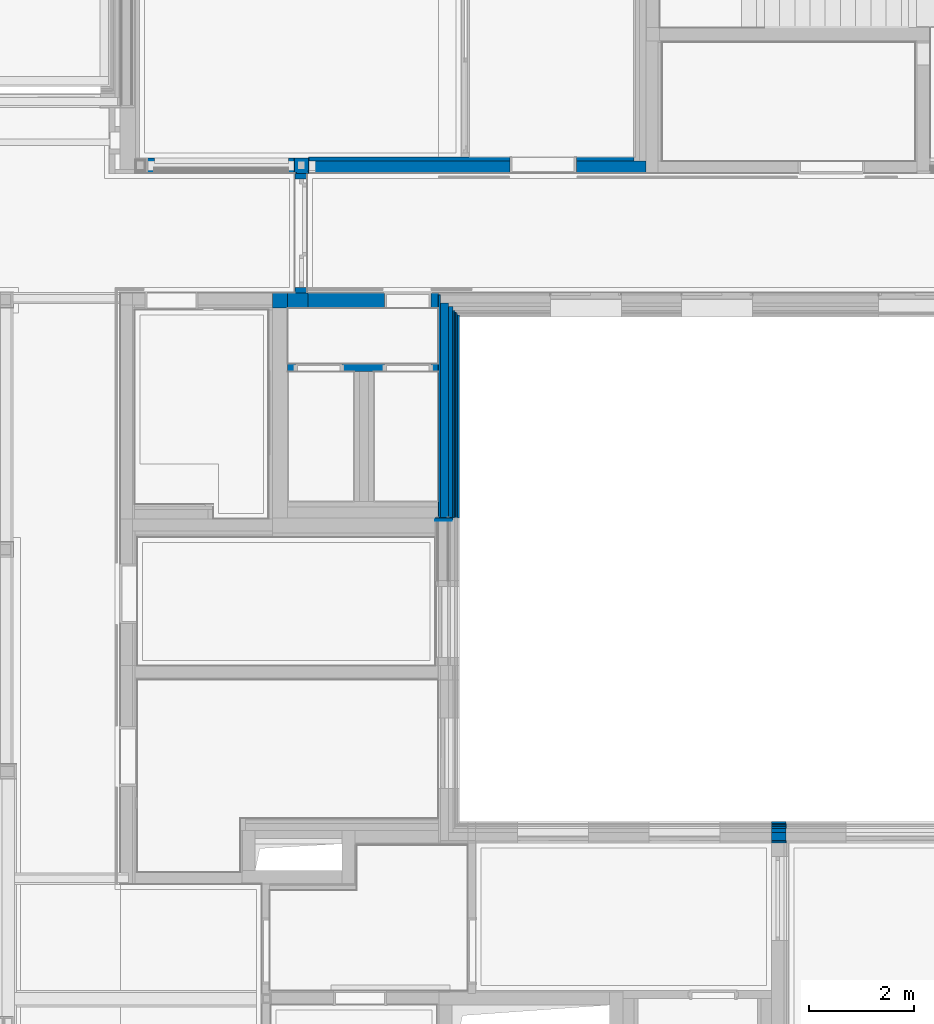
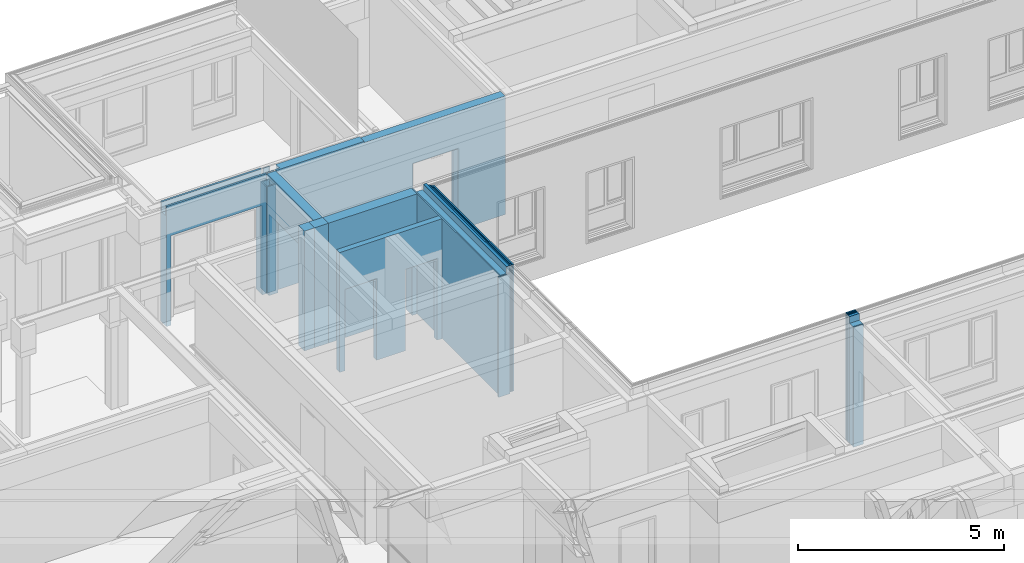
# One storey, part 30 of 222: 32 walls, 7 openings.
"""IFC4 building model written with IfcOpenShell, lengths in metres."""

from ifc_helpers import new_model, entity, si_unit, converted_unit, derived_unit, frame, frame_2d, origin, origin_with_axes, place, context, subcontext, project, spatial, polyline, rectangle, outline, extrude, clip, bounded_halfspace, material, element, save


model = new_model("IFC4")

# Units and contexts
model_context = context("Model", 3, precision=1e-05, world=origin())
body_context = subcontext(model_context, "Body", "Model", "MODEL_VIEW")
ifc_project = project(units=[si_unit("LENGTHUNIT", "METRE"), si_unit("AREAUNIT", "SQUARE_METRE"), si_unit("VOLUMEUNIT", "CUBIC_METRE"), si_unit("MASSUNIT", "GRAM", prefix="KILO"), converted_unit("PLANEANGLEUNIT", "DEGREE", entity("IfcPlaneAngleMeasure", 0.0174532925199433), si_unit("PLANEANGLEUNIT", "RADIAN"), dimensions=[0, 0, 0, 0, 0, 0, 0]), derived_unit("THERMALTRANSMITTANCEUNIT", [(si_unit("POWERUNIT", "WATT"), 1), (si_unit("THERMODYNAMICTEMPERATUREUNIT", "KELVIN"), -1), (si_unit("LENGTHUNIT", "METRE"), -2)]), derived_unit("VOLUMETRICFLOWRATEUNIT", [(si_unit("LENGTHUNIT", "METRE"), 3), (converted_unit("TIMEUNIT", "hour", entity("IfcTimeMeasure", 3600.0), si_unit("TIMEUNIT", "SECOND"), dimensions=[0, 0, 1, 0, 0, 0, 0]), -1), (si_unit("LENGTHUNIT", "METRE"), -1)])], contexts=[model_context])

# Site, building, storey
site_placement = place(None, origin())
site = spatial("IfcSite", under=ifc_project, at=site_placement, Name="Psychiatrie Neubau Wunstorf", CompositionType="ELEMENT")
building_placement = place(site_placement, origin())
building = spatial("IfcBuilding", under=site, at=building_placement, Name="Neubau H2 Stationsgebäude", CompositionType="ELEMENT")
storey_placement = place(building_placement, frame((0.0, 0.0, 3.6)))
storey = spatial("IfcBuildingStorey", under=building, at=storey_placement, Name="H2 Ebene +1", CompositionType="ELEMENT", Elevation=3.6)

# Walls
ifc_material_1 = material(Name="WA-LB")
wall_1_placement = place(storey_placement, frame((43.9390000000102, 20.5499980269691, 0.0), z_axis=(0.0, 0.0, 1.0), x_axis=(0.0, -1.0, 0.0)))
element("IfcWall", 1, at=wall_1_placement, inside=storey, material=ifc_material_1, context=body_context, shape_type="SweptSolid", body=[
    extrude(rectangle(XDim=4.24949197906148, YDim=0.036, at=frame_2d((2.12474598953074, 0.018), x_axis=(1.0, 0.0))), origin_with_axes(), (0.0, 0.0, 1.0), 3.55),
])
ifc_material_2 = material(Name="WA-DL")
wall_2_placement = place(storey_placement, frame((43.9750000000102, 20.3899980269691, 0.0), z_axis=(0.0, 0.0, 1.0), x_axis=(0.0, -1.0, 0.0)))
element("IfcWall", 2, at=wall_2_placement, inside=storey, material=ifc_material_2, context=body_context, shape_type="SweptSolid", body=[
    extrude(rectangle(XDim=4.08949197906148, YDim=0.16, at=frame_2d((2.04474598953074, 0.08), x_axis=(1.0, 0.0))), origin_with_axes(), (0.0, 0.0, 1.0), 3.55),
])
ifc_material_3 = material(Name="WA-DL")
wall_3_placement = place(storey_placement, frame((44.1350000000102, 20.3299980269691, 0.0), z_axis=(0.0, 0.0, 1.0), x_axis=(0.0, -1.0, 0.0)))
element("IfcWall", 3, at=wall_3_placement, inside=storey, material=ifc_material_3, context=body_context, shape_type="SweptSolid", body=[
    extrude(rectangle(XDim=4.02949197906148, YDim=0.08, at=frame_2d((2.01474598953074, 0.04), x_axis=(1.0, 0.0))), origin_with_axes(), (0.0, 0.0, 1.0), 3.75),
])
ifc_material_4 = material(Name="WA-LB")
wall_4_placement = place(storey_placement, frame((44.2150000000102, 20.2499980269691, 0.0), z_axis=(0.0, 0.0, 1.0), x_axis=(0.0, -1.0, 0.0)))
element("IfcWall", 4, at=wall_4_placement, inside=storey, material=ifc_material_4, context=body_context, shape_type="SweptSolid", body=[
    extrude(rectangle(XDim=3.94949197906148, YDim=0.036, at=frame_2d((1.97474598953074, 0.018), x_axis=(1.0, 0.0))), origin_with_axes(), (0.0, 0.0, 1.0), 3.75),
])
ifc_material_5 = material(Name="WA-KL")
wall_5_placement = place(storey_placement, frame((44.2510000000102, 20.2139980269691, 0.0), z_axis=(0.0, 0.0, 1.0), x_axis=(0.0, -1.0, 0.0)))
element("IfcWall", 5, at=wall_5_placement, inside=storey, material=ifc_material_5, context=body_context, shape_type="SweptSolid", body=[
    extrude(rectangle(XDim=3.91349197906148, YDim=0.024, at=frame_2d((1.95674598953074, 0.012), x_axis=(1.0, 0.0))), origin_with_axes(), (0.0, 0.0, 1.0), 3.75),
])
ifc_material_6 = material(Name="WA-TL")
wall_6_placement = place(storey_placement, frame((44.2750000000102, 20.1899980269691, 0.0), z_axis=(0.0, 0.0, 1.0), x_axis=(0.0, -1.0, 0.0)))
element("IfcWall", 6, at=wall_6_placement, inside=storey, material=ifc_material_6, context=body_context, shape_type="SweptSolid", body=[
    extrude(rectangle(XDim=3.88949197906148, YDim=0.024, at=frame_2d((1.94474598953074, 0.012), x_axis=(1.0, 0.0))), origin_with_axes(), (0.0, 0.0, 1.0), 3.75),
])
ifc_material_7 = material(Name="WA-HS")
wall_7_placement = place(storey_placement, frame((44.2990000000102, 20.1659980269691, 0.0), z_axis=(0.0, 0.0, 1.0), x_axis=(0.0, -1.0, 0.0)))
element("IfcWall", 7, at=wall_7_placement, inside=storey, material=ifc_material_7, context=body_context, shape_type="SweptSolid", body=[
    extrude(rectangle(XDim=3.86549197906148, YDim=0.042, at=frame_2d((1.93274598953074, 0.021), x_axis=(1.0, 0.0))), origin_with_axes(), (0.0, 0.0, 1.0), 3.75),
])
ifc_material_8 = material(Name="WA-LB")
wall_8_placement = place(storey_placement, frame((50.2860000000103, 10.1139996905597, 0.0)))
element("IfcWall", 8, at=wall_8_placement, inside=storey, material=ifc_material_8, Name="2x Gipsfaserplatte", context=body_context, shape_type="SweptSolid", body=[
    extrude(rectangle(XDim=0.272, YDim=0.036, at=frame_2d((0.136, 0.018), x_axis=(1.0, 0.0))), origin_with_axes(), (0.0, 0.0, 1.0), 3.55),
])
ifc_material_9 = material(Name="WA-DL")
wall_9_placement = place(storey_placement, frame((50.2860000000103, 10.1499996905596, 0.0)))
element("IfcWall", 9, at=wall_9_placement, inside=storey, material=ifc_material_9, Name="Holzständer + Zwischendämmung", context=body_context, shape_type="SweptSolid", body=[
    extrude(rectangle(XDim=0.272, YDim=0.16, at=frame_2d((0.136, 0.08), x_axis=(1.0, 0.0))), origin_with_axes(), (0.0, 0.0, 1.0), 3.55),
])
ifc_material_10 = material(Name="WA-DL")
wall_10_placement = place(storey_placement, frame((50.2860000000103, 10.3099996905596, 0.0)))
element("IfcWall", 10, at=wall_10_placement, inside=storey, material=ifc_material_10, Name="Staffel + Zwischendämmung", context=body_context, shape_type="SweptSolid", body=[
    extrude(rectangle(XDim=0.272, YDim=0.08, at=frame_2d((0.136, 0.04), x_axis=(1.0, 0.0))), origin_with_axes(), (0.0, 0.0, 1.0), 3.75),
])
ifc_material_11 = material(Name="WA-LB")
wall_11_placement = place(storey_placement, frame((50.2860000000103, 10.3899996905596, 0.0)))
element("IfcWall", 11, at=wall_11_placement, inside=storey, material=ifc_material_11, context=body_context, shape_type="SweptSolid", body=[
    extrude(rectangle(XDim=0.272, YDim=0.036, at=frame_2d((0.136, 0.018), x_axis=(1.0, 0.0))), origin_with_axes(), (0.0, 0.0, 1.0), 3.75),
])
ifc_material_12 = material(Name="WA-KL")
wall_12_placement = place(storey_placement, frame((50.2860000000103, 10.4259996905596, 0.0)))
element("IfcWall", 12, at=wall_12_placement, inside=storey, material=ifc_material_12, Name="Konterlattung", context=body_context, shape_type="SweptSolid", body=[
    extrude(rectangle(XDim=0.272, YDim=0.024, at=frame_2d((0.136, 0.012), x_axis=(1.0, 0.0))), origin_with_axes(), (0.0, 0.0, 1.0), 3.75),
])
ifc_material_13 = material(Name="WA-TL")
wall_13_placement = place(storey_placement, frame((50.2860000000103, 10.4499996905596, 0.0)))
element("IfcWall", 13, at=wall_13_placement, inside=storey, material=ifc_material_13, Name="Traglattung", context=body_context, shape_type="SweptSolid", body=[
    extrude(rectangle(XDim=0.272, YDim=0.024, at=frame_2d((0.136, 0.012), x_axis=(1.0, 0.0))), origin_with_axes(), (0.0, 0.0, 1.0), 3.75),
])
ifc_material_14 = material(Name="WA-HS")
wall_14_placement = place(storey_placement, frame((50.2860000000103, 10.4739996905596, 0.0)))
element("IfcWall", 14, at=wall_14_placement, inside=storey, material=ifc_material_14, Name="Holzschindel", context=body_context, shape_type="SweptSolid", body=[
    extrude(rectangle(XDim=0.272, YDim=0.042, at=frame_2d((0.136, 0.021), x_axis=(1.0, 0.0))), origin_with_axes(), (0.0, 0.0, 1.0), 3.75),
])
ifc_material_15 = material(Name="WA-LB")
wall_15_placement = place(storey_placement, frame((44.2150000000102, 16.3005060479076, 0.0), z_axis=(0.0, 0.0, 1.0), x_axis=(-1.0, 0.0, 0.0)))
element("IfcWall", 15, at=wall_15_placement, inside=storey, material=ifc_material_15, context=body_context, shape_type="SweptSolid", body=[
    extrude(rectangle(XDim=0.333, YDim=0.036, at=frame_2d((0.1665, 0.018), x_axis=(1.0, 0.0))), origin_with_axes(), (0.0, 0.0, 1.0), 3.55),
])
ifc_material_16 = material(Name="WA-LB")
wall_16_placement = place(storey_placement, frame((44.1960000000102, 16.2645060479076, 0.0), z_axis=(0.0, 0.0, 1.0), x_axis=(-1.0, 0.0, 0.0)))
element("IfcWall", 16, at=wall_16_placement, inside=storey, material=ifc_material_16, context=body_context, shape_type="SweptSolid", body=[
    extrude(rectangle(XDim=0.314, YDim=0.019, at=frame_2d((0.157, 0.0095), x_axis=(1.0, 0.0))), origin_with_axes(), (0.0, 0.0, 1.0), 3.55),
])

# Wall, opening
ifc_material_17 = material(Name="WI-HW 60")
wall_17_placement = place(storey_placement, frame((43.9390000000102, 20.5859980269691, 0.0), z_axis=(0.0, 0.0, 1.0), x_axis=(-1.0, 0.0, 0.0)))
wall_17 = element("IfcWall", 17, at=wall_17_placement, inside=storey, material=ifc_material_17, context=body_context, shape_type="SweptSolid", body=[
    extrude(rectangle(XDim=2.48100000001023, YDim=0.29, at=frame_2d((1.24050000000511, 0.145), x_axis=(1.0, 0.0))), origin_with_axes(), (0.0, 0.0, 1.0), 3.55),
])
opening_1_placement = place(wall_17_placement, frame((0.139000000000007, 0.0, 0.0), z_axis=(0.0, 1.0, 0.0), x_axis=(0.0, 0.0, 1.0)))
element("IfcOpeningElement", 18, at=opening_1_placement, cuts=wall_17, Name="Türöffnung", ObjectType="Opening", context=body_context, shape_type="SweptSolid", body=[
    extrude(outline(polyline([(2.41, 0.885), (2.41, 0.0), (0.0, 0.0), (0.0, 0.885), (2.41, 0.885)])), origin_with_axes(), (0.0, 0.0, 1.0), 0.29),
])

ifc_material_18 = material(Name="WI-LW 60")
wall_18_placement = place(storey_placement, frame((41.198, 23.1540026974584, 0.0), z_axis=(0.0, 0.0, 1.0), x_axis=(-0.999999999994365, -3.35709518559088e-06, 0.0)))
wall_18 = element("IfcWall", 19, at=wall_18_placement, inside=storey, material=ifc_material_18, context=body_context, shape_type="Clipping", body=[
    clip(extrude(outline(polyline([(-2.79500097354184, -0.289990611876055), (-9.73526087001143e-07, -0.289990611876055), (0.0, 0.0), (-2.79499999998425, 9.38308104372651e-06), (-2.79500097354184, -0.289990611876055)])), frame((2.79500097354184, 0.289990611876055, 0.0), z_axis=(0.0, 0.0, 1.0), x_axis=(1.0, 0.0, 0.0)), (0.0, 0.0, 1.0), 3.55), bounded_halfspace(frame((1.39750048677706, 0.144997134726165, 3.25), z_axis=(0.0, 0.0, -1.0), x_axis=(3.35709518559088e-06, 0.999999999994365, 0.0)), True, origin_with_axes(), polyline([(2.79500018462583, 0.0549910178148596), (2.79500078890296, 0.23499101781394), (7.889282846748e-07, 0.23500325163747), (1.84651151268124e-07, 0.0550032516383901), (2.79500018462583, 0.0549910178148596)]))),
])
opening_2_placement = place(wall_18_placement, frame((2.66775097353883, 0.289991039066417, 0.0), z_axis=(-3.35709518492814e-06, -0.999999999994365, 0.0), x_axis=(0.0, 0.0, 1.0)))
element("IfcOpeningElement", 20, at=opening_2_placement, cuts=wall_18, Name="Türöffnung", ObjectType="Opening", context=body_context, shape_type="SweptSolid", body=[
    extrude(outline(polyline([(2.65, 2.55), (2.65, 0.0), (0.0, 0.0), (0.0, 2.55), (2.65, 2.55)])), origin_with_axes(), (0.0, 0.0, 1.0), 0.29),
])

ifc_material_19 = material(Name="WI-LW 60")
wall_19_placement = place(storey_placement, frame((41.208, 22.8639990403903, 0.0), z_axis=(0.0, 0.0, 1.0), x_axis=(0.0, -1.0, 0.0)))
wall_19 = element("IfcWall", 21, at=wall_19_placement, inside=storey, material=ifc_material_19, context=body_context, shape_type="SweptSolid", body=[
    extrude(rectangle(XDim=2.27800098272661, YDim=0.25, at=frame_2d((1.13900049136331, 0.125), x_axis=(1.0, 0.0))), origin_with_axes(), (0.0, 0.0, 1.0), 3.55),
])
opening_3_placement = place(wall_19_placement, frame((0.107499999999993, 0.0, 0.0), z_axis=(0.0, 1.0, 0.0), x_axis=(0.0, 0.0, 1.0)))
element("IfcOpeningElement", 22, at=opening_3_placement, cuts=wall_19, Name="Türöffnung", ObjectType="Opening", context=body_context, shape_type="SweptSolid", body=[
    extrude(outline(polyline([(2.41, 2.063), (2.41, 0.0), (0.0, 0.0), (0.0, 2.063), (2.41, 2.063)])), origin_with_axes(), (0.0, 0.0, 1.0), 0.25),
])

ifc_material_20 = material(Name="WI-LB")
wall_20_placement = place(storey_placement, frame((47.664, 23.1709999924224, 0.0), z_axis=(0.0, 0.0, 1.0), x_axis=(-1.0, 0.0, 0.0)))
wall_20 = element("IfcWall", 23, at=wall_20_placement, inside=storey, material=ifc_material_20, context=body_context, shape_type="Clipping", body=[
    clip(extrude(rectangle(XDim=6.19599999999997, YDim=0.075, at=frame_2d((3.09799999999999, 0.0375), x_axis=(1.0, 0.0))), origin_with_axes(), (0.0, 0.0, 1.0), 2.85), bounded_halfspace(frame((1.86324999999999, 0.0375, 2.81), z_axis=(0.0, 0.0, -1.0), x_axis=(1.0, 0.0, 0.0)), True, origin_with_axes(), polyline([(0.0, 0.0), (3.72649999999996, 0.0), (3.72649999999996, 0.075), (0.0, 0.075), (0.0, 0.0)]))),
])
opening_4_placement = place(wall_20_placement, frame((2.35899999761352, 0.075, 0.0), z_axis=(0.0, -1.0, 0.0), x_axis=(0.0, 0.0, 1.0)))
element("IfcOpeningElement", 24, at=opening_4_placement, cuts=wall_20, Name="Türöffnung", ObjectType="Opening", context=body_context, shape_type="SweptSolid", body=[
    extrude(outline(polyline([(2.41, 1.26), (2.41, 0.0), (0.0, 0.0), (0.0, 1.26), (2.41, 1.26)])), origin_with_axes(), (0.0, 0.0, 1.0), 0.075),
])

ifc_material_21 = material(Name="WI-HW 60")
wall_21_placement = place(storey_placement, frame((47.889, 23.0959999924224, 0.0), z_axis=(0.0, 0.0, 1.0), x_axis=(-1.0, 0.0, 0.0)))
wall_21 = element("IfcWall", 25, at=wall_21_placement, inside=storey, material=ifc_material_21, context=body_context, shape_type="Clipping", body=[
    clip(clip(extrude(rectangle(XDim=6.42099999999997, YDim=0.232, at=frame_2d((3.21049999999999, 0.116), x_axis=(1.0, 0.0))), origin_with_axes(), (0.0, 0.0, 1.0), 3.55), bounded_halfspace(frame((6.35724911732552, 0.0885004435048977, 3.25), z_axis=(0.0, 0.0, -1.0), x_axis=(-1.01994363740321e-06, -0.99999999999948, 0.0)), True, origin_with_axes(), polyline([(6.29349832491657, 0.177000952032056), (6.29349814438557, 0.0), (6.42099999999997, 0.0), (6.42099999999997, 0.177000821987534), (6.29349832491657, 0.177000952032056)]))), bounded_halfspace(frame((1.97574999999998, 0.116, 3.51), z_axis=(0.0, 0.0, -1.0), x_axis=(-1.0, 0.0, 0.0)), True, origin_with_axes(), polyline([(3.95149999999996, 0.232), (0.0, 0.232), (0.0, 0.0), (3.95149999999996, 0.0), (3.95149999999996, 0.232)]))),
])
opening_5_placement = place(wall_21_placement, frame((2.58399999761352, 0.232, 0.0), z_axis=(0.0, -1.0, 0.0), x_axis=(0.0, 0.0, 1.0)))
element("IfcOpeningElement", 26, at=opening_5_placement, cuts=wall_21, Name="Türöffnung", ObjectType="Opening", context=body_context, shape_type="SweptSolid", body=[
    extrude(outline(polyline([(2.41, 1.26), (2.41, 0.0), (0.0, 0.0), (0.0, 1.26), (2.41, 1.26)])), origin_with_axes(), (0.0, 0.0, 1.0), 0.232),
])

# Wall, openings
ifc_material_22 = material(Name="WI-LB")
wall_22_placement = place(storey_placement, frame((43.9390000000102, 19.2350060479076, 0.0), z_axis=(0.0, 0.0, 1.0), x_axis=(-1.0, 0.0, 0.0)))
wall_22 = element("IfcWall", 27, at=wall_22_placement, inside=storey, material=ifc_material_22, context=body_context, shape_type="SweptSolid", body=[
    extrude(rectangle(XDim=2.87000000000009, YDim=0.15, at=frame_2d((1.43500000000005, 0.075), x_axis=(1.0, 0.0))), origin_with_axes(), (0.0, 0.0, 1.0), 3.55),
])
opening_6_placement = place(wall_22_placement, frame((1.02400000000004, 0.15, 0.0), z_axis=(0.0, -1.0, 0.0), x_axis=(0.0, 0.0, 1.0)))
element("IfcOpeningElement", 28, at=opening_6_placement, cuts=wall_22, Name="Türöffnung", ObjectType="Opening", context=body_context, shape_type="SweptSolid", body=[
    extrude(outline(polyline([(2.41, 0.885), (2.41, 0.0), (0.0, 0.0), (0.0, 0.885), (2.41, 0.885)])), origin_with_axes(), (0.0, 0.0, 1.0), 0.149999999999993),
])
opening_7_placement = place(wall_22_placement, frame((2.72000000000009, 0.15, 0.0), z_axis=(0.0, -1.0, 0.0), x_axis=(0.0, 0.0, 1.0)))
element("IfcOpeningElement", 29, at=opening_7_placement, cuts=wall_22, Name="Türöffnung", ObjectType="Opening", context=body_context, shape_type="SweptSolid", body=[
    extrude(outline(polyline([(2.41, 0.885), (2.41, 0.0), (0.0, 0.0), (0.0, 0.885), (2.41, 0.885)])), origin_with_axes(), (0.0, 0.0, 1.0), 0.149999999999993),
])

# Walls
ifc_material_23 = material(Name="WI-GKF")
wall_23_placement = place(storey_placement, frame((41.198, 23.1539990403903, 0.0), z_axis=(0.0, 0.0, 1.0), x_axis=(0.0, -1.0, 0.0)))
element("IfcWall", 30, at=wall_23_placement, inside=storey, material=ifc_material_23, context=body_context, shape_type="SweptSolid", body=[
    extrude(rectangle(XDim=0.29, YDim=0.036, at=frame_2d((0.145, 0.018), x_axis=(1.0, 0.0))), origin_with_axes(), (0.0, 0.0, 1.0), 3.15),
])
ifc_material_24 = material(Name="WI-HW 60")
wall_24_placement = place(storey_placement, frame((41.234, 23.1179990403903, 0.0), z_axis=(0.0, 0.0, 1.0), x_axis=(0.0, -1.0, 0.0)))
element("IfcWall", 31, at=wall_24_placement, inside=storey, material=ifc_material_24, context=body_context, shape_type="Clipping", body=[
    clip(extrude(rectangle(XDim=0.218, YDim=0.019, at=frame_2d((0.109, 0.0095), x_axis=(1.0, 0.0))), origin_with_axes(), (0.0, 0.0, 1.0), 3.55), bounded_halfspace(frame((0.10899964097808, 0.0095, 3.25), z_axis=(0.0, 0.0, -1.0), x_axis=(0.0, -1.0, 0.0)), True, origin_with_axes(), polyline([(0.0189996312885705, 0.019), (0.0189996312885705, 0.0), (0.198999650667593, 0.0), (0.198999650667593, 0.019), (0.0189996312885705, 0.019)]))),
])
ifc_material_25 = material(Name="WI-GKF")
wall_25_placement = place(storey_placement, frame((41.234, 22.8639990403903, 0.0)))
element("IfcWall", 32, at=wall_25_placement, inside=storey, material=ifc_material_25, context=body_context, shape_type="SweptSolid", body=[
    extrude(rectangle(XDim=0.234, YDim=0.036, at=frame_2d((0.117, 0.018), x_axis=(1.0, 0.0))), origin_with_axes(), (0.0, 0.0, 1.0), 3.15),
])
ifc_material_26 = material(Name="WI-HW 60")
wall_26_placement = place(storey_placement, frame((41.253, 22.8999990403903, 0.0)))
element("IfcWall", 33, at=wall_26_placement, inside=storey, material=ifc_material_26, context=body_context, shape_type="SweptSolid", body=[
    extrude(rectangle(XDim=0.179, YDim=0.019, at=frame_2d((0.0895, 0.0095), x_axis=(1.0, 0.0))), origin_with_axes(), (0.0, 0.0, 1.0), 3.55),
])
ifc_material_27 = material(Name="WI-GKF")
wall_27_placement = place(storey_placement, frame((41.468, 22.8999990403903, 0.0), z_axis=(0.0, 0.0, 1.0), x_axis=(0.0, 1.0, 0.0)))
element("IfcWall", 34, at=wall_27_placement, inside=storey, material=ifc_material_27, context=body_context, shape_type="SweptSolid", body=[
    extrude(rectangle(XDim=0.254, YDim=0.036, at=frame_2d((0.127, 0.018), x_axis=(1.0, 0.0))), origin_with_axes(), (0.0, 0.0, 1.0), 3.15),
])
ifc_material_28 = material(Name="WI-HW 60")
wall_28_placement = place(storey_placement, frame((41.432, 22.9189990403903, 0.0), z_axis=(0.0, 0.0, 1.0), x_axis=(0.0, 1.0, 0.0)))
element("IfcWall", 35, at=wall_28_placement, inside=storey, material=ifc_material_28, context=body_context, shape_type="Clipping", body=[
    clip(extrude(rectangle(XDim=0.199, YDim=0.019, at=frame_2d((0.0995, 0.0095), x_axis=(1.0, 0.0))), origin_with_axes(), (0.0, 0.0, 1.0), 3.55), bounded_halfspace(frame((0.0900000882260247, 0.0095, 3.25), z_axis=(0.0, 0.0, -1.0), x_axis=(0.0, -1.0, 0.0)), True, origin_with_axes(), polyline([(0.0, 0.019), (0.0, 0.0), (0.180000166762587, 0.0), (0.180000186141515, 0.019), (0.0, 0.019)]))),
])
ifc_material_29 = material(Name="WI-GKF")
wall_29_placement = place(storey_placement, frame((41.432, 23.1539990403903, 0.0), z_axis=(0.0, 0.0, 1.0), x_axis=(-1.0, 0.0, 0.0)))
element("IfcWall", 36, at=wall_29_placement, inside=storey, material=ifc_material_29, context=body_context, shape_type="SweptSolid", body=[
    extrude(rectangle(XDim=0.198, YDim=0.036, at=frame_2d((0.099, 0.018), x_axis=(1.0, 0.0))), origin_with_axes(), (0.0, 0.0, 1.0), 3.15),
])
ifc_material_30 = material(Name="WI-HW 60")
wall_30_placement = place(storey_placement, frame((41.413, 23.1179990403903, 0.0), z_axis=(0.0, 0.0, 1.0), x_axis=(-1.0, 0.0, 0.0)))
element("IfcWall", 37, at=wall_30_placement, inside=storey, material=ifc_material_30, context=body_context, shape_type="SweptSolid", body=[
    extrude(rectangle(XDim=0.16, YDim=0.019, at=frame_2d((0.08, 0.0095), x_axis=(1.0, 0.0))), origin_with_axes(), (0.0, 0.0, 1.0), 3.55),
])
ifc_material_31 = material(Name="WI-HW 60")
wall_31_placement = place(storey_placement, frame((40.7790000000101, 20.2959980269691, 0.0)))
element("IfcWall", 38, at=wall_31_placement, inside=storey, material=ifc_material_31, context=body_context, shape_type="SweptSolid", body=[
    extrude(rectangle(XDim=0.29, YDim=0.29, at=frame_2d((0.145, 0.145), x_axis=(1.0, 0.0))), origin_with_axes(), (0.0, 0.0, 1.0), 3.55),
])
ifc_material_32 = material(Name="WI-HW 60")
wall_32_placement = place(storey_placement, frame((41.0690000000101, 20.2959980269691, 0.0)))
element("IfcWall", 39, at=wall_32_placement, inside=storey, material=ifc_material_32, context=body_context, shape_type="SweptSolid", body=[
    extrude(rectangle(XDim=0.388999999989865, YDim=0.29, at=frame_2d((0.194499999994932, 0.145), x_axis=(1.0, 0.0))), origin_with_axes(), (0.0, 0.0, 1.0), 3.55),
])

save(model, "model.ifc")
